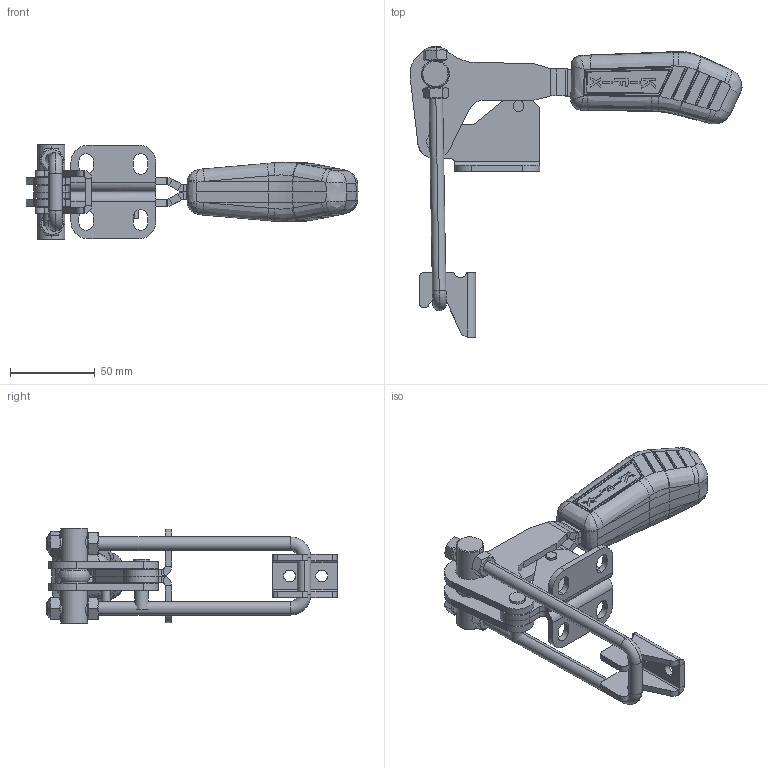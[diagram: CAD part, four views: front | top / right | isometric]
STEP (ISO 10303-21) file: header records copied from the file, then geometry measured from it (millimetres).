
FILE_DESCRIPTION (( 'STEP AP203' ), '1' );
FILE_NAME ('KF-263.STEP', '2018-06-12T17:26:31', ( 'Ricardo' ), ( '' ), 'SwSTEP 2.0', 'SolidWorks 2018', '' );
FILE_SCHEMA (( 'CONFIG_CONTROL_DESIGN' ));
Length unit declared in the file: millimetre
Products named in the file (13): 01.10068_Montagem; 15.10030; 01.10068_Esquerda; 06.50030; 16.20101; 06.50026; 03.20029; 07.60002; 11.50017; KF-263; 11.50002; 02.12054_Direita; 02.12054_Esquerda
Assembly tree (14 placements, depth 2):
  KF-263
    02.12054_Direita
    02.12054_Esquerda
    01.10068_Montagem
    01.10068_Esquerda
    16.20101
    03.20029
    11.50017  x2
    11.50002  x2
    15.10030
    06.50030
    06.50026
    07.60002
Bounding box: 195.56 x 170.96 x 56.5 mm (x, y, z)
Volume: 178175.5 mm3; surface area: 72853.5 mm2
Topology: 14 solids, 14 shells, 687 faces, 1742 edges, 1089 vertices
Faces by surface type: plane 257, cylinder 168, bspline 165, sphere 52, cone 36, torus 9
Entity records: 25443 total; most frequent: CARTESIAN_POINT 9722, ORIENTED_EDGE 3280, DIRECTION 2545, EDGE_CURVE 1640, VERTEX_POINT 1029, AXIS2_PLACEMENT_3D 963, EDGE_LOOP 711, FACE_OUTER_BOUND 653
